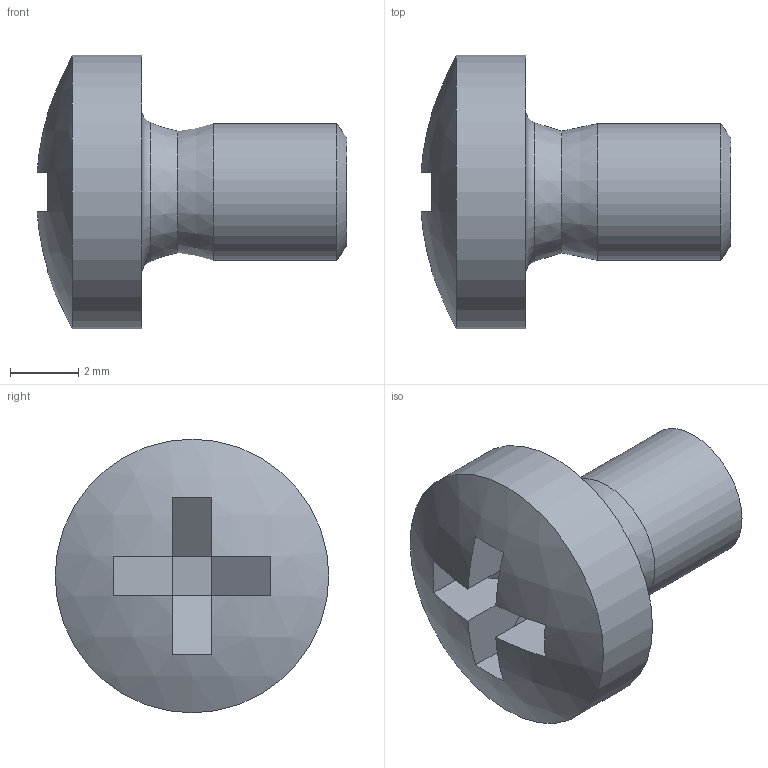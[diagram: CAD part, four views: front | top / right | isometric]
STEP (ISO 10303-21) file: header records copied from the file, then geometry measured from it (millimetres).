
FILE_DESCRIPTION(/* description */ ('Linsenkopfschraube mit Kreuzschlitz DIN 7985 M4x6','CAx-IF Rec.Pracs.---Representation and Presentation of Product Manufacturing Information (PMI)---4.0---2014-10-13'),/* implementation_level */ '2;1');
FILE_NAME(/* name */ 'E:\CAMTEC_2020_Pack and Go\Subrack_2U\2530073.stp',/* time_stamp */ '2020-09-21T13:30:10+02:00',/* author */ ('rryba'),/* organization */ ('WUERTH'),/* preprocessor_version */ 'ST-DEVELOPER v18.1',/* originating_system */ 'Autodesk Inventor 2021',/* authorisation */ '');
FILE_SCHEMA (('AP242_MANAGED_MODEL_BASED_3D_ENGINEERING_MIM_LF { 1 0 10303 442 1 1 4 }'));
Length unit declared in the file: millimetre
Products named in the file (1): 2530073
Bounding box: 9.06 x 8 x 8 mm (x, y, z)
Volume: 182.3 mm3; surface area: 261 mm2
Topology: 1 solids, 2 shells, 27 faces, 86 edges, 90 vertices
Faces by surface type: plane 19, cylinder 3, cone 3, sphere 1, torus 1
Full cylindrical faces by diameter (mm): 0.314 x1, 4 x1, 8 x1
Entity records: 944 total; most frequent: CARTESIAN_POINT 180, DIRECTION 146, ORIENTED_EDGE 120, EDGE_CURVE 60, AXIS2_PLACEMENT_3D 55, VERTEX_POINT 39, LINE 36, VECTOR 36
